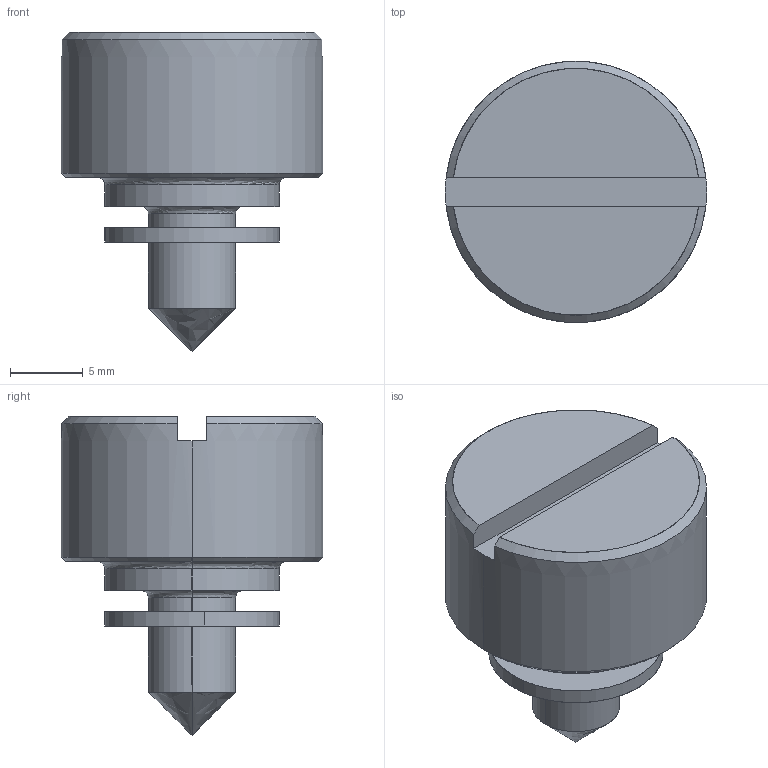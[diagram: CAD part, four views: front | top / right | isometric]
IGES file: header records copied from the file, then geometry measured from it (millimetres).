
Start section: SolidWorks IGES FILE using analytic representation for surfaces
Global section: file name: \\Ls-wvld1d\share\シブタニ\3D設計\ネジ・アイボルト\SCR-MK102(S)-7\SCR-MK102(S)-7.IGS,41HSolidWorks; native system: 2003 by SolidWorks Corporation; preprocessor: Version 5.3; author: user; date: 130702.175303; units: millimetre
Bounding box: 18 x 18 x 22 mm (x, y, z)
Surface area: 1527.3 mm2 (no closed solid volume)
Topology: 0 solids, 0 shells, 29 faces, 396 edges, 394 vertices
Faces by surface type: revolution 16, bspline 13
